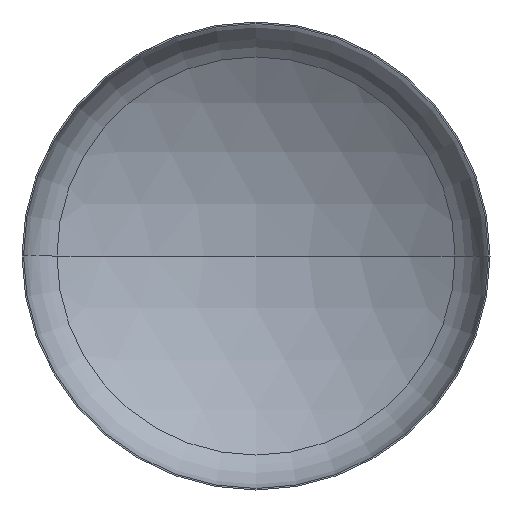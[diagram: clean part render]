
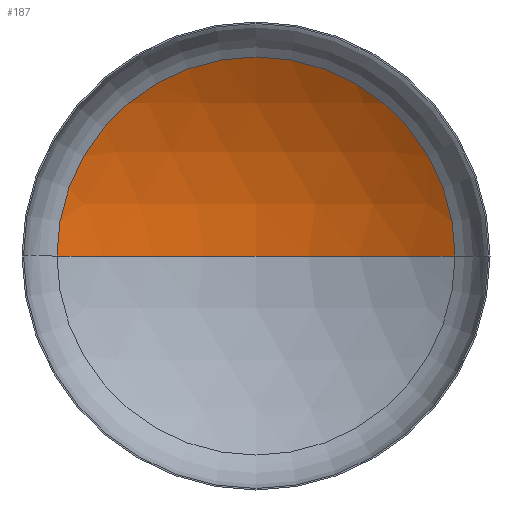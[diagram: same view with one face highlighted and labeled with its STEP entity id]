
A CAD part, front view. The second image highlights one B-rep face of the part: STEP entity #187.
In plain terms, the highlighted spherical face has radius 1520 mm.
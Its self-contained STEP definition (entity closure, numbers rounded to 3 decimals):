
#2 = AXIS2_PLACEMENT_3D ( 'NONE', #402, #322, #219 ) ;
#3 = AXIS2_PLACEMENT_3D ( 'NONE', #165, #179, #180 ) ;
#9 = EDGE_LOOP ( 'NONE', ( #80, #86, #40 ) ) ;
#10 = VERTEX_POINT ( 'NONE', #272 ) ;
#26 = AXIS2_PLACEMENT_3D ( 'NONE', #224, #195, #265 ) ;
#31 = SPHERICAL_SURFACE ( 'NONE', #26, 1520. ) ;
#40 = ORIENTED_EDGE ( 'NONE', *, *, #140, .T. ) ;
#43 = AXIS2_PLACEMENT_3D ( 'NONE', #220, #383, #196 ) ;
#60 = VERTEX_POINT ( 'NONE', #357 ) ;
#80 = ORIENTED_EDGE ( 'NONE', *, *, #353, .F. ) ;
#86 = ORIENTED_EDGE ( 'NONE', *, *, #351, .T. ) ;
#105 = VERTEX_POINT ( 'NONE', #315 ) ;
#139 = CIRCLE ( 'NONE', #2, 1520. ) ;
#140 = EDGE_CURVE ( 'NONE', #60, #105, #294, .T. ) ;
#165 = CARTESIAN_POINT ( 'NONE',  ( 0., -1021.722, 0. ) ) ;
#166 = FACE_OUTER_BOUND ( 'NONE', #9, .T. ) ;
#179 = DIRECTION ( 'NONE',  ( 0., 0., -1. ) ) ;
#180 = DIRECTION ( 'NONE',  ( -1., 0., 0. ) ) ;
#187 = ADVANCED_FACE ( 'NONE', ( #166 ), #31, .F. ) ;
#195 = DIRECTION ( 'NONE',  ( 0., 0., -1. ) ) ;
#196 = DIRECTION ( 'NONE',  ( 1., 0., 0. ) ) ;
#219 = DIRECTION ( 'NONE',  ( 1., 0., 0. ) ) ;
#220 = CARTESIAN_POINT ( 'NONE',  ( 0., 265.609, 0. ) ) ;
#224 = CARTESIAN_POINT ( 'NONE',  ( 0., -1021.722, 0. ) ) ;
#265 = DIRECTION ( 'NONE',  ( -1., 0., 0. ) ) ;
#271 = CIRCLE ( 'NONE', #3, 1520. ) ;
#272 = CARTESIAN_POINT ( 'NONE',  ( 0., 498.278, 0. ) ) ;
#294 = CIRCLE ( 'NONE', #43, 808.195 ) ;
#315 = CARTESIAN_POINT ( 'NONE',  ( -808.195, 265.609, 0. ) ) ;
#322 = DIRECTION ( 'NONE',  ( 0., 0., 1. ) ) ;
#351 = EDGE_CURVE ( 'NONE', #10, #60, #271, .T. ) ;
#353 = EDGE_CURVE ( 'NONE', #10, #105, #139, .T. ) ;
#357 = CARTESIAN_POINT ( 'NONE',  ( 808.195, 265.609, 0. ) ) ;
#383 = DIRECTION ( 'NONE',  ( 0., -1., 0. ) ) ;
#402 = CARTESIAN_POINT ( 'NONE',  ( 0., -1021.722, 0. ) ) ;
